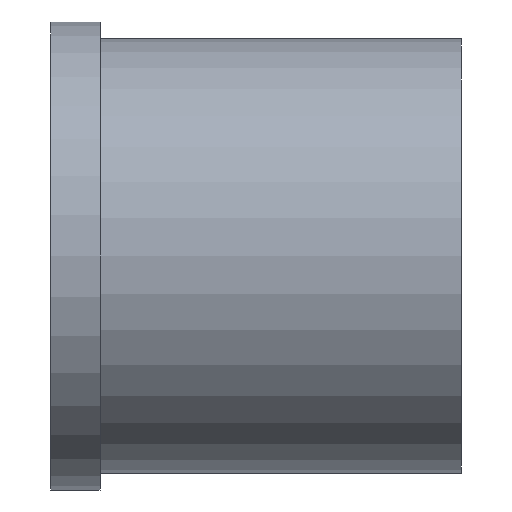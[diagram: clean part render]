
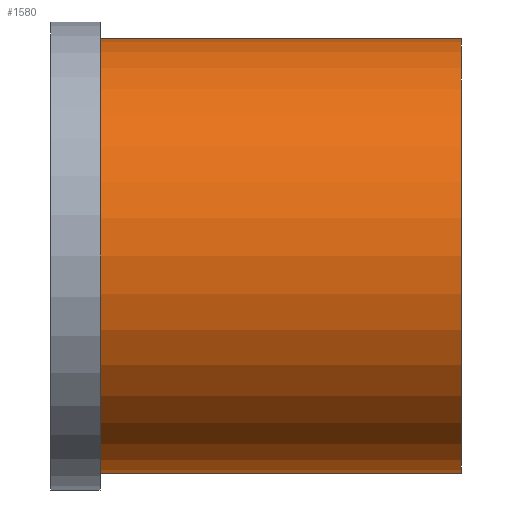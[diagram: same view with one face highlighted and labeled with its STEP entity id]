
A CAD part, front view. The second image highlights one B-rep face of the part: STEP entity #1580.
In plain terms, the highlighted cylindrical face has radius 13.25 mm (diameter 26.5 mm), a partial arc.
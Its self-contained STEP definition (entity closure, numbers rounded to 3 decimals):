
#1060=CARTESIAN_POINT('',(42.,-0.278,-1.887));
#1070=DIRECTION('',(-1.,0.,0.));
#1080=DIRECTION('',(0.,0.,1.));
#1090=AXIS2_PLACEMENT_3D('',#1060,#1070,#1080);
#1100=CIRCLE('',#1090,13.25);
#1110=CARTESIAN_POINT('',(42.,-0.278,11.363));
#1120=VERTEX_POINT('',#1110);
#1130=CARTESIAN_POINT('',(42.,-0.278,-15.137));
#1140=VERTEX_POINT('',#1130);
#1170=EDGE_CURVE('',#1140,#1120,#1100,.T.);
#1270=CARTESIAN_POINT('',(53.,-0.278,-1.887));
#1280=DIRECTION('',(1.,0.,0.));
#1290=DIRECTION('',(0.,0.,1.));
#1300=AXIS2_PLACEMENT_3D('',#1270,#1280,#1290);
#1310=CYLINDRICAL_SURFACE('',#1300,13.25);
#1320=CARTESIAN_POINT('',(53.,-0.278,-15.137));
#1330=DIRECTION('',(1.,0.,0.));
#1340=VECTOR('',#1330,1.);
#1350=LINE('',#1320,#1340);
#1360=CARTESIAN_POINT('',(64.,-0.278,-15.137));
#1370=VERTEX_POINT('',#1360);
#1380=EDGE_CURVE('',#1140,#1370,#1350,.T.);
#1390=ORIENTED_EDGE('',*,*,#1380,.T.);
#1400=ORIENTED_EDGE('',*,*,#1170,.F.);
#1410=CARTESIAN_POINT('',(53.,-0.278,11.363));
#1420=DIRECTION('',(1.,0.,0.));
#1430=VECTOR('',#1420,1.);
#1440=LINE('',#1410,#1430);
#1450=CARTESIAN_POINT('',(64.,-0.278,11.363));
#1460=VERTEX_POINT('',#1450);
#1470=EDGE_CURVE('',#1120,#1460,#1440,.T.);
#1480=ORIENTED_EDGE('',*,*,#1470,.F.);
#1490=CARTESIAN_POINT('',(64.,-0.278,-1.887));
#1500=DIRECTION('',(-1.,0.,0.));
#1510=DIRECTION('',(0.,0.,1.));
#1520=AXIS2_PLACEMENT_3D('',#1490,#1500,#1510);
#1530=CIRCLE('',#1520,13.25);
#1540=EDGE_CURVE('',#1370,#1460,#1530,.T.);
#1550=ORIENTED_EDGE('',*,*,#1540,.T.);
#1560=EDGE_LOOP('',(#1550,#1480,#1400,#1390));
#1570=FACE_OUTER_BOUND('',#1560,.T.);
#1580=ADVANCED_FACE('',(#1570),#1310,.T.);
